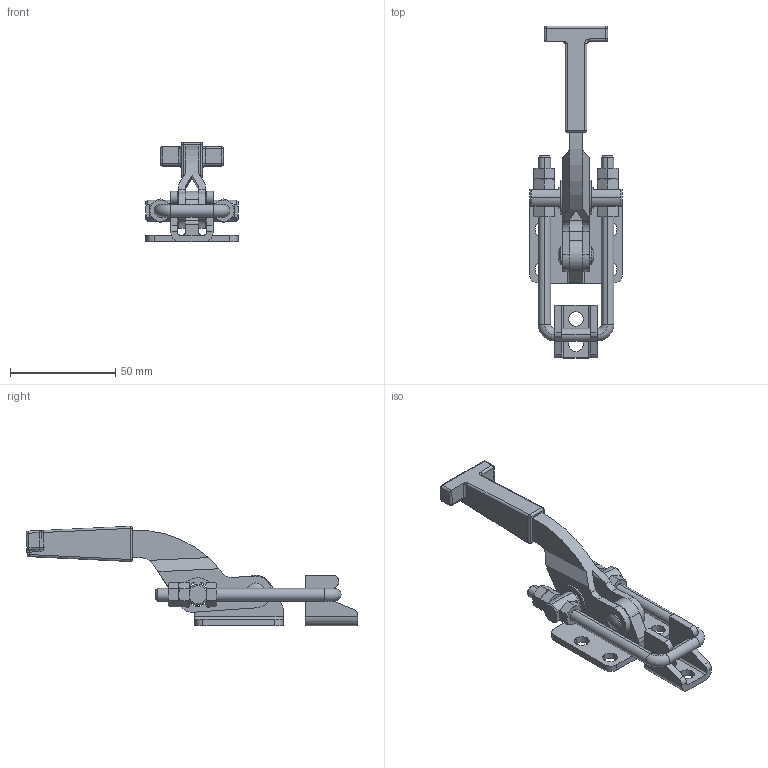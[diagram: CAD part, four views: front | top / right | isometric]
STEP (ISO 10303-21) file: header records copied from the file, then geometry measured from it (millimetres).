
FILE_DESCRIPTION(('CATIA V5 STEP Exchange'),'2;1');
FILE_NAME('D:\Model\toggle\toggle_standard\KJF_032_41FB.stp','2005-06-24T03:16:09+00:00',('none'),('none'),'CATIA Version 5 Release 11 (IN-9)','CATIA V5 STEP AP203',' none');
FILE_SCHEMA(('CONFIG_CONTROL_DESIGN'));
Length unit declared in the file: millimetre
Products named in the file (1): Part1
Bounding box: 44 x 157.47 x 47.22 mm (x, y, z)
Volume: 39485.7 mm3; surface area: 25707.5 mm2
Topology: 15 solids, 15 shells, 356 faces, 909 edges, 573 vertices
Faces by surface type: cylinder 144, plane 139, cone 46, bspline 19, torus 4, sphere 4
Entity records: 11452 total; most frequent: CARTESIAN_POINT 3643, ORIENTED_EDGE 1784, DIRECTION 1209, EDGE_CURVE 892, AXIS2_PLACEMENT_3D 587, VERTEX_POINT 573, EDGE_LOOP 399, VECTOR 370
